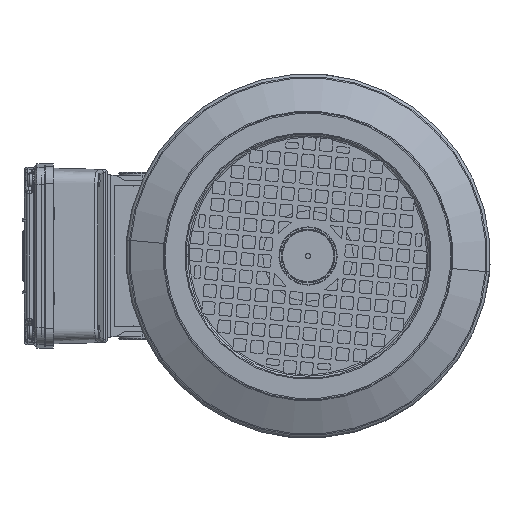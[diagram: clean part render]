
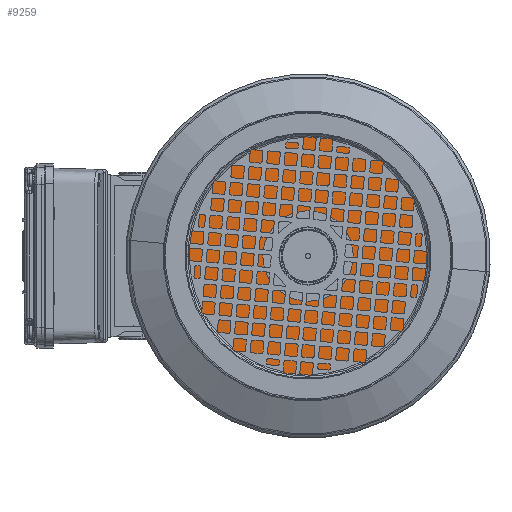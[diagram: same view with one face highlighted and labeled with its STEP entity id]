
A CAD part, left-side view. The second image highlights one B-rep face of the part: STEP entity #9259.
In plain terms, the highlighted planar face has unit normal (-1, 0, 0).
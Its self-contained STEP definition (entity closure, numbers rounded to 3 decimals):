
#4192 = DIRECTION ( 'NONE',  ( 0., 0., 1. ) ) ;
#5366 = EDGE_CURVE ( 'NONE', #124563, #79938, #89808, .T. ) ;
#5819 = VERTEX_POINT ( 'NONE', #115582 ) ;
#9259 = ADVANCED_FACE ( 'NONE', ( #112161, #33552 ), #61485, .F. ) ;
#9638 = CARTESIAN_POINT ( 'NONE',  ( 0., 0., -98. ) ) ;
#10260 = CARTESIAN_POINT ( 'NONE',  ( 0., 2.967, 88.45 ) ) ;
#13069 = DIRECTION ( 'NONE',  ( -1., 0., 0. ) ) ;
#14423 = AXIS2_PLACEMENT_3D ( 'NONE', #9638, #81357, #19991 ) ;
#19991 = DIRECTION ( 'NONE',  ( 0., 0., 1. ) ) ;
#22382 = CARTESIAN_POINT ( 'NONE',  ( 0., 2.967, -88.45 ) ) ;
#22588 = VERTEX_POINT ( 'NONE', #121719 ) ;
#23472 = ORIENTED_EDGE ( 'NONE', *, *, #73702, .F. ) ;
#24793 = ORIENTED_EDGE ( 'NONE', *, *, #74988, .T. ) ;
#25565 = ORIENTED_EDGE ( 'NONE', *, *, #61939, .F. ) ;
#26577 = CARTESIAN_POINT ( 'NONE',  ( 0., 0., 0. ) ) ;
#30455 = AXIS2_PLACEMENT_3D ( 'NONE', #26577, #98341, #36892 ) ;
#30754 = CARTESIAN_POINT ( 'NONE',  ( 0., 0., 0. ) ) ;
#31448 = DIRECTION ( 'NONE',  ( -1., 0., 0. ) ) ;
#32422 = EDGE_CURVE ( 'NONE', #58931, #5819, #44580, .T. ) ;
#33552 = FACE_OUTER_BOUND ( 'NONE', #39035, .T. ) ;
#34383 = VERTEX_POINT ( 'NONE', #22382 ) ;
#34519 = CIRCLE ( 'NONE', #124987, 88.5 ) ;
#34729 = CIRCLE ( 'NONE', #109944, 27.5 ) ;
#34954 = DIRECTION ( 'NONE',  ( -1., 0., 0. ) ) ;
#35074 = ORIENTED_EDGE ( 'NONE', *, *, #131416, .T. ) ;
#35083 = CARTESIAN_POINT ( 'NONE',  ( 0., 88.45, 2.967 ) ) ;
#36892 = DIRECTION ( 'NONE',  ( 0., 0., 1. ) ) ;
#39035 = EDGE_LOOP ( 'NONE', ( #116874, #42017, #80256, #23472, #35074, #110856, #131187, #25565, #24793 ) ) ;
#40991 = DIRECTION ( 'NONE',  ( 0., 0., 1. ) ) ;
#41292 = CARTESIAN_POINT ( 'NONE',  ( 0., 88.5, 0. ) ) ;
#42017 = ORIENTED_EDGE ( 'NONE', *, *, #110765, .T. ) ;
#43048 = VERTEX_POINT ( 'NONE', #10260 ) ;
#43076 = ORIENTED_EDGE ( 'NONE', *, *, #5366, .F. ) ;
#44580 = CIRCLE ( 'NONE', #63699, 10. ) ;
#45970 = CIRCLE ( 'NONE', #58654, 10. ) ;
#49740 = CARTESIAN_POINT ( 'NONE',  ( 0., 88.45, -2.967 ) ) ;
#50622 = DIRECTION ( 'NONE',  ( -1., 0., 0. ) ) ;
#51578 = DIRECTION ( 'NONE',  ( 0., 0., -1. ) ) ;
#54138 = DIRECTION ( 'NONE',  ( -1., 0., 0. ) ) ;
#55329 = CARTESIAN_POINT ( 'NONE',  ( 0., 98., 0. ) ) ;
#56293 = EDGE_LOOP ( 'NONE', ( #103100, #43076 ) ) ;
#58512 = CARTESIAN_POINT ( 'NONE',  ( 0., 0., 0. ) ) ;
#58654 = AXIS2_PLACEMENT_3D ( 'NONE', #112074, #50622, #122380 ) ;
#58801 = CIRCLE ( 'NONE', #101055, 88.5 ) ;
#58931 = VERTEX_POINT ( 'NONE', #86596 ) ;
#61485 = PLANE ( 'NONE',  #108956 ) ;
#61939 = EDGE_CURVE ( 'NONE', #22588, #34383, #107923, .T. ) ;
#63699 = AXIS2_PLACEMENT_3D ( 'NONE', #74463, #13069, #84806 ) ;
#65608 = DIRECTION ( 'NONE',  ( -1., 0., 0. ) ) ;
#65667 = DIRECTION ( 'NONE',  ( 0., 0., 1. ) ) ;
#68796 = DIRECTION ( 'NONE',  ( 0., 0., 1. ) ) ;
#70030 = VERTEX_POINT ( 'NONE', #49740 ) ;
#71951 = EDGE_CURVE ( 'NONE', #70030, #95176, #118061, .T. ) ;
#73702 = EDGE_CURVE ( 'NONE', #43048, #58931, #95481, .T. ) ;
#74086 = VERTEX_POINT ( 'NONE', #113279 ) ;
#74463 = CARTESIAN_POINT ( 'NONE',  ( 0., 0., 98. ) ) ;
#74988 = EDGE_CURVE ( 'NONE', #22588, #74086, #77421, .T. ) ;
#77421 = CIRCLE ( 'NONE', #98288, 88.5 ) ;
#79938 = VERTEX_POINT ( 'NONE', #111970 ) ;
#80256 = ORIENTED_EDGE ( 'NONE', *, *, #32422, .F. ) ;
#80872 = CARTESIAN_POINT ( 'NONE',  ( 0., 0., -27.5 ) ) ;
#81357 = DIRECTION ( 'NONE',  ( -1., 0., 0. ) ) ;
#84806 = DIRECTION ( 'NONE',  ( 0., 0., 1. ) ) ;
#86596 = CARTESIAN_POINT ( 'NONE',  ( 0., 0., 88. ) ) ;
#89808 = CIRCLE ( 'NONE', #30455, 27.5 ) ;
#91874 = EDGE_CURVE ( 'NONE', #109295, #74086, #45970, .T. ) ;
#92822 = CARTESIAN_POINT ( 'NONE',  ( 0., 0., 0. ) ) ;
#95176 = VERTEX_POINT ( 'NONE', #35083 ) ;
#95481 = CIRCLE ( 'NONE', #127265, 10. ) ;
#96402 = CARTESIAN_POINT ( 'NONE',  ( 0., 0., 0. ) ) ;
#97371 = EDGE_CURVE ( 'NONE', #79938, #124563, #34729, .T. ) ;
#98288 = AXIS2_PLACEMENT_3D ( 'NONE', #96402, #34954, #106638 ) ;
#98341 = DIRECTION ( 'NONE',  ( -1., 0., 0. ) ) ;
#99214 = CARTESIAN_POINT ( 'NONE',  ( 0., -88.45, 2.967 ) ) ;
#101055 = AXIS2_PLACEMENT_3D ( 'NONE', #30754, #102469, #40991 ) ;
#102469 = DIRECTION ( 'NONE',  ( -1., 0., 0. ) ) ;
#103100 = ORIENTED_EDGE ( 'NONE', *, *, #97371, .F. ) ;
#103153 = DIRECTION ( 'NONE',  ( 0., 0., 1. ) ) ;
#106638 = DIRECTION ( 'NONE',  ( 0., 0., 1. ) ) ;
#107923 = CIRCLE ( 'NONE', #14423, 10. ) ;
#108956 = AXIS2_PLACEMENT_3D ( 'NONE', #41292, #113082, #51578 ) ;
#109295 = VERTEX_POINT ( 'NONE', #99214 ) ;
#109944 = AXIS2_PLACEMENT_3D ( 'NONE', #58512, #130196, #68796 ) ;
#110765 = EDGE_CURVE ( 'NONE', #109295, #5819, #120180, .T. ) ;
#110856 = ORIENTED_EDGE ( 'NONE', *, *, #71951, .F. ) ;
#111970 = CARTESIAN_POINT ( 'NONE',  ( 0., 0., 27.5 ) ) ;
#112074 = CARTESIAN_POINT ( 'NONE',  ( 0., -98., 0. ) ) ;
#112161 = FACE_BOUND ( 'NONE', #56293, .T. ) ;
#113082 = DIRECTION ( 'NONE',  ( 1., 0., 0. ) ) ;
#113279 = CARTESIAN_POINT ( 'NONE',  ( 0., -88.45, -2.967 ) ) ;
#115582 = CARTESIAN_POINT ( 'NONE',  ( 0., -2.967, 88.45 ) ) ;
#115629 = CARTESIAN_POINT ( 'NONE',  ( 0., 0., 98. ) ) ;
#116369 = EDGE_CURVE ( 'NONE', #70030, #34383, #58801, .T. ) ;
#116874 = ORIENTED_EDGE ( 'NONE', *, *, #91874, .F. ) ;
#118061 = CIRCLE ( 'NONE', #128840, 10. ) ;
#120180 = CIRCLE ( 'NONE', #129654, 88.5 ) ;
#121719 = CARTESIAN_POINT ( 'NONE',  ( 0., -2.967, -88.45 ) ) ;
#122380 = DIRECTION ( 'NONE',  ( 0., 0., 1. ) ) ;
#124563 = VERTEX_POINT ( 'NONE', #80872 ) ;
#124987 = AXIS2_PLACEMENT_3D ( 'NONE', #92822, #31448, #103153 ) ;
#125896 = DIRECTION ( 'NONE',  ( 0., 0., 1. ) ) ;
#127010 = CARTESIAN_POINT ( 'NONE',  ( 0., 0., 0. ) ) ;
#127060 = DIRECTION ( 'NONE',  ( -1., 0., 0. ) ) ;
#127265 = AXIS2_PLACEMENT_3D ( 'NONE', #115629, #54138, #125896 ) ;
#128840 = AXIS2_PLACEMENT_3D ( 'NONE', #55329, #127060, #65667 ) ;
#129654 = AXIS2_PLACEMENT_3D ( 'NONE', #127010, #65608, #4192 ) ;
#130196 = DIRECTION ( 'NONE',  ( -1., 0., 0. ) ) ;
#131187 = ORIENTED_EDGE ( 'NONE', *, *, #116369, .T. ) ;
#131416 = EDGE_CURVE ( 'NONE', #43048, #95176, #34519, .T. ) ;
